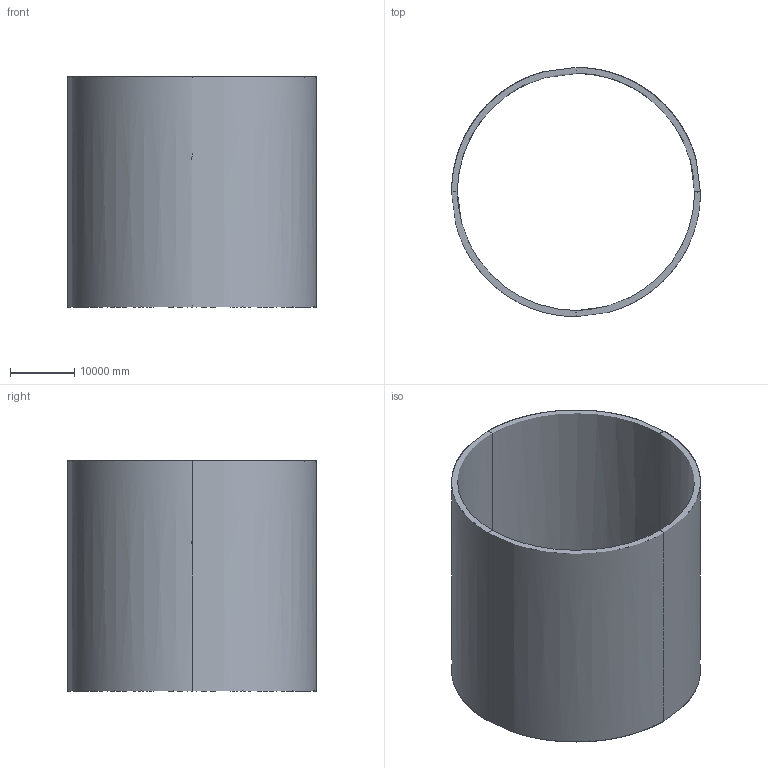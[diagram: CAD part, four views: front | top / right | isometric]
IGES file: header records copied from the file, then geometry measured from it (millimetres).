
Start section:           0         1         2         3         4         5         6 123456789012345678901234567890123456789012345678901234567890123456789012 3Dipsos IGES translator
Global section: file name: C:/users/VizSciInt/4.MAILLAGE/TQC_to_Maillage_to_CAO/CP1_AerauliqueBRcontamination/1.premiers-essais/tn1brtqc_gcbr.igs; native system: 3DIPSOS-PROTOTYPE-TRANSLATOR; preprocessor: IGES Preprocessor 3.0; author: tim (tim); units: millimetre
Bounding box: 38800 x 38800 x 36000 mm (x, y, z)
Surface area: 8750882250.1 mm2 (no closed solid volume)
Topology: 0 solids, 0 shells, 4 faces, 12 edges, 8 vertices
Faces by surface type: bspline 4
